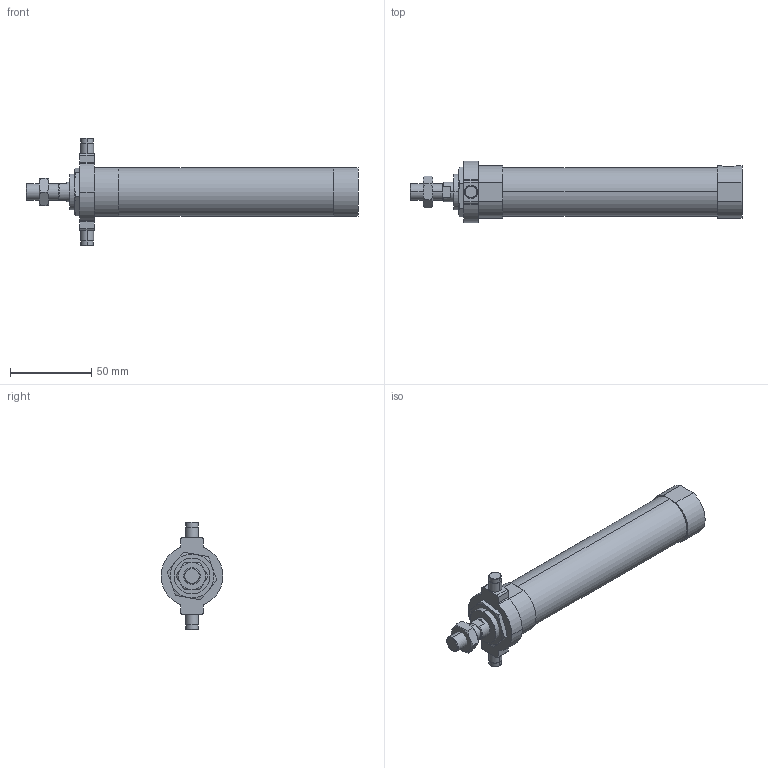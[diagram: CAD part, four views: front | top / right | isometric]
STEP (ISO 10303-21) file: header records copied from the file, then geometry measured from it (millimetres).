
FILE_DESCRIPTION (( 'STEP AP203' ), '1' );
FILE_NAME ('JGND1-25-50-T.STEP', '2016-08-04T02:19:25', ( '' ), ( '' ), 'SwSTEP 2.0', 'SolidWorks 2014', '' );
FILE_SCHEMA (( 'CONFIG_CONTROL_DESIGN' ));
Length unit declared in the file: millimetre
Products named in the file (5): J#1-25-50(P); J#2-25-T; JGND1-25-50-T
Assembly tree (4 placements, depth 2):
  JGND1-25-50-T
    J#1-25-50(P)
    (unnamed)
    J#2-25-T
    (unnamed)
Bounding box: 204 x 38 x 66 mm (x, y, z)
Volume: 134381.8 mm3; surface area: 25741.9 mm2
Topology: 4 solids, 4 shells, 124 faces, 281 edges, 169 vertices
Faces by surface type: plane 45, cylinder 41, torus 24, cone 14
Entity records: 4216 total; most frequent: CARTESIAN_POINT 937, DIRECTION 603, ORIENTED_EDGE 558, EDGE_CURVE 279, AXIS2_PLACEMENT_3D 247, VERTEX_POINT 169, EDGE_LOOP 136, FACE_OUTER_BOUND 124
